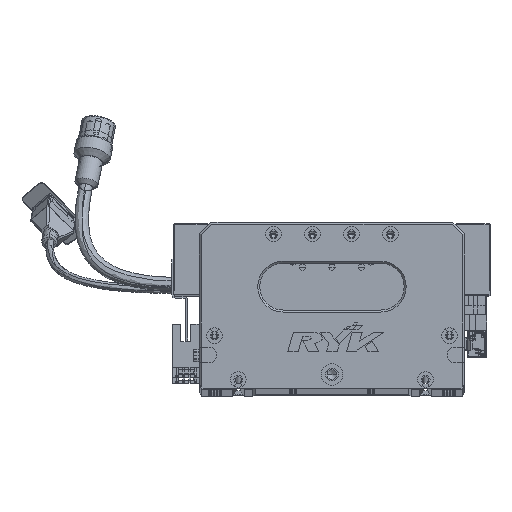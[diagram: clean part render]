
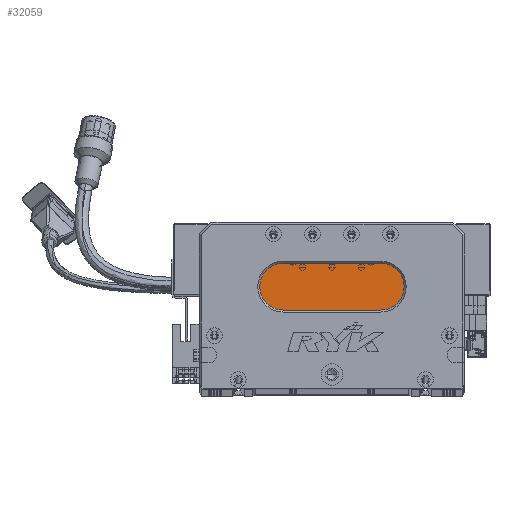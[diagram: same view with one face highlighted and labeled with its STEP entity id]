
A CAD part, top view. The second image highlights one B-rep face of the part: STEP entity #32059.
In plain terms, the highlighted planar face has unit normal (0, 0, 1) as drawn and (0, 0, -1) by its records, which use the part's own axes.
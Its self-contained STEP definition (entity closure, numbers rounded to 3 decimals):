
#1443 = DIRECTION ( 'NONE',  ( -1., 0., 0. ) ) ;
#3100 = CARTESIAN_POINT ( 'NONE',  ( 93., 40., 13. ) ) ;
#3445 = CARTESIAN_POINT ( 'NONE',  ( 93., 52., 13. ) ) ;
#9436 = DIRECTION ( 'NONE',  ( 0., 0., -1. ) ) ;
#9732 = CIRCLE ( 'NONE', #73105, 12. ) ;
#13390 = DIRECTION ( 'NONE',  ( 0., 0., -1. ) ) ;
#19884 = CIRCLE ( 'NONE', #49215, 12. ) ;
#20178 = VERTEX_POINT ( 'NONE', #86226 ) ;
#24120 = VERTEX_POINT ( 'NONE', #3100 ) ;
#24180 = CARTESIAN_POINT ( 'NONE',  ( 43., 64., 13. ) ) ;
#28930 = CARTESIAN_POINT ( 'NONE',  ( 93., 64., 13. ) ) ;
#32059 = ADVANCED_FACE ( 'NONE', ( #39283 ), #67656, .T. ) ;
#36195 = LINE ( 'NONE', #40765, #82916 ) ;
#39283 = FACE_OUTER_BOUND ( 'NONE', #75693, .T. ) ;
#40765 = CARTESIAN_POINT ( 'NONE',  ( 93., 64., 13. ) ) ;
#41114 = EDGE_CURVE ( 'NONE', #62601, #24120, #19884, .T. ) ;
#41915 = DIRECTION ( 'NONE',  ( -1., 0., 0. ) ) ;
#48965 = CIRCLE ( 'NONE', #57849, 12. ) ;
#49215 = AXIS2_PLACEMENT_3D ( 'NONE', #55438, #9436, #1443 ) ;
#52563 = ORIENTED_EDGE ( 'NONE', *, *, #74710, .T. ) ;
#55438 = CARTESIAN_POINT ( 'NONE',  ( 93., 52., 13. ) ) ;
#57428 = EDGE_CURVE ( 'NONE', #108698, #20178, #48965, .T. ) ;
#57849 = AXIS2_PLACEMENT_3D ( 'NONE', #115868, #61524, #97933 ) ;
#60563 = CARTESIAN_POINT ( 'NONE',  ( 43., 52., 13. ) ) ;
#61221 = VERTEX_POINT ( 'NONE', #24180 ) ;
#61524 = DIRECTION ( 'NONE',  ( 0., 0., -1. ) ) ;
#62601 = VERTEX_POINT ( 'NONE', #28930 ) ;
#67656 = PLANE ( 'NONE',  #80377 ) ;
#73105 = AXIS2_PLACEMENT_3D ( 'NONE', #60563, #104500, #41915 ) ;
#74710 = EDGE_CURVE ( 'NONE', #24120, #108698, #83049, .T. ) ;
#75693 = EDGE_LOOP ( 'NONE', ( #110425, #52563, #96374, #113302, #87920 ) ) ;
#76731 = DIRECTION ( 'NONE',  ( -1., 0., 0. ) ) ;
#77939 = DIRECTION ( 'NONE',  ( 1., 0., 0. ) ) ;
#78801 = VECTOR ( 'NONE', #91202, 1000. ) ;
#79557 = EDGE_CURVE ( 'NONE', #61221, #62601, #36195, .T. ) ;
#80377 = AXIS2_PLACEMENT_3D ( 'NONE', #3445, #13390, #76731 ) ;
#82034 = CARTESIAN_POINT ( 'NONE',  ( 93., 40., 13. ) ) ;
#82916 = VECTOR ( 'NONE', #77939, 1000. ) ;
#83049 = LINE ( 'NONE', #82034, #78801 ) ;
#86226 = CARTESIAN_POINT ( 'NONE',  ( 31., 52., 13. ) ) ;
#87920 = ORIENTED_EDGE ( 'NONE', *, *, #79557, .T. ) ;
#91202 = DIRECTION ( 'NONE',  ( -1., 0., 0. ) ) ;
#96374 = ORIENTED_EDGE ( 'NONE', *, *, #57428, .T. ) ;
#97933 = DIRECTION ( 'NONE',  ( -1., 0., 0. ) ) ;
#104500 = DIRECTION ( 'NONE',  ( 0., 0., -1. ) ) ;
#108698 = VERTEX_POINT ( 'NONE', #117527 ) ;
#110425 = ORIENTED_EDGE ( 'NONE', *, *, #41114, .T. ) ;
#111528 = EDGE_CURVE ( 'NONE', #20178, #61221, #9732, .T. ) ;
#113302 = ORIENTED_EDGE ( 'NONE', *, *, #111528, .T. ) ;
#115868 = CARTESIAN_POINT ( 'NONE',  ( 43., 52., 13. ) ) ;
#117527 = CARTESIAN_POINT ( 'NONE',  ( 43., 40., 13. ) ) ;
